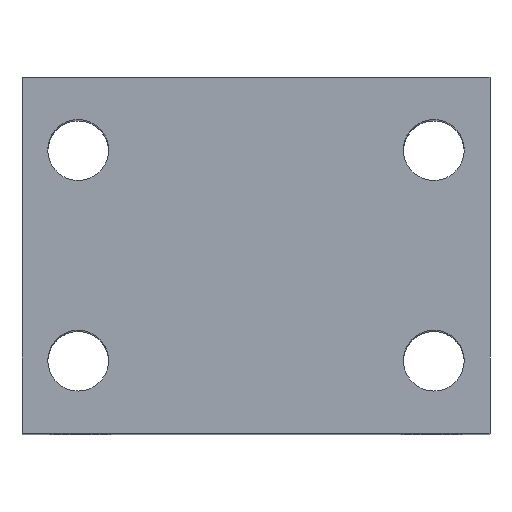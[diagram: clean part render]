
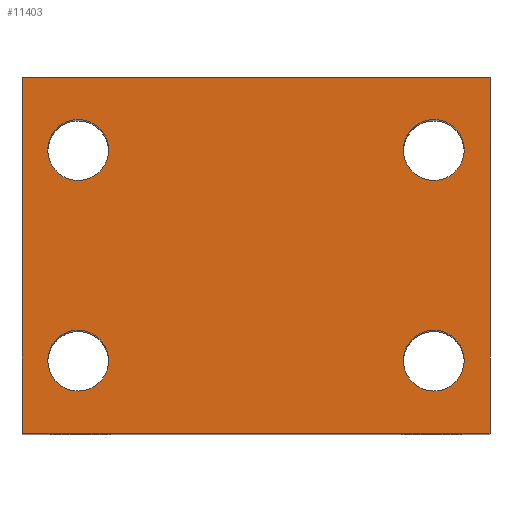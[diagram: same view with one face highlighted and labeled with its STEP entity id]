
A CAD part, top view. The second image highlights one B-rep face of the part: STEP entity #11403.
In plain terms, the highlighted planar face has unit normal (0, 0, 1).
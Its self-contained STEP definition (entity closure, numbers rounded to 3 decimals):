
#28 = CARTESIAN_POINT ( 'NONE',  ( 44.5, 15.5, 85. ) ) ;
#41 = AXIS2_PLACEMENT_3D ( 'NONE', #8819, #8781, #8708 ) ;
#129 = EDGE_CURVE ( 'NONE', #4479, #1001, #8754, .T. ) ;
#264 = DIRECTION ( 'NONE',  ( 0., 0., -1. ) ) ;
#314 = FACE_OUTER_BOUND ( 'NONE', #7160, .T. ) ;
#331 = AXIS2_PLACEMENT_3D ( 'NONE', #4909, #11137, #5876 ) ;
#432 = DIRECTION ( 'NONE',  ( -1., 0., 0. ) ) ;
#651 = CARTESIAN_POINT ( 'NONE',  ( 50., 76., 85. ) ) ;
#652 = ORIENTED_EDGE ( 'NONE', *, *, #129, .T. ) ;
#660 = CARTESIAN_POINT ( 'NONE',  ( -50., 0., 85. ) ) ;
#837 = VERTEX_POINT ( 'NONE', #660 ) ;
#1001 = VERTEX_POINT ( 'NONE', #7888 ) ;
#1056 = DIRECTION ( 'NONE',  ( 0., 0., -1. ) ) ;
#1145 = ORIENTED_EDGE ( 'NONE', *, *, #4992, .T. ) ;
#1324 = CARTESIAN_POINT ( 'NONE',  ( -50., 76., 85. ) ) ;
#1486 = ORIENTED_EDGE ( 'NONE', *, *, #6809, .T. ) ;
#1706 = AXIS2_PLACEMENT_3D ( 'NONE', #7719, #1996, #8613 ) ;
#1759 = VERTEX_POINT ( 'NONE', #9338 ) ;
#1804 = VECTOR ( 'NONE', #9469, 1000. ) ;
#1872 = ORIENTED_EDGE ( 'NONE', *, *, #4954, .T. ) ;
#1892 = VERTEX_POINT ( 'NONE', #28 ) ;
#1898 = AXIS2_PLACEMENT_3D ( 'NONE', #3279, #264, #7061 ) ;
#1996 = DIRECTION ( 'NONE',  ( 0., 0., -1. ) ) ;
#2101 = CIRCLE ( 'NONE', #3050, 6.5 ) ;
#2351 = AXIS2_PLACEMENT_3D ( 'NONE', #10316, #4942, #11170 ) ;
#2487 = CARTESIAN_POINT ( 'NONE',  ( -31.5, 60.5, 85. ) ) ;
#2517 = VERTEX_POINT ( 'NONE', #10129 ) ;
#2603 = EDGE_CURVE ( 'NONE', #11853, #8963, #9046, .T. ) ;
#2752 = VERTEX_POINT ( 'NONE', #2487 ) ;
#2939 = EDGE_CURVE ( 'NONE', #2752, #2517, #11976, .T. ) ;
#3050 = AXIS2_PLACEMENT_3D ( 'NONE', #6830, #1056, #7760 ) ;
#3179 = CARTESIAN_POINT ( 'NONE',  ( -50., 76., 85. ) ) ;
#3279 = CARTESIAN_POINT ( 'NONE',  ( -50., 76., 85. ) ) ;
#3284 = VERTEX_POINT ( 'NONE', #3494 ) ;
#3442 = DIRECTION ( 'NONE',  ( 0., 0., -1. ) ) ;
#3478 = DIRECTION ( 'NONE',  ( -1., 0., 0. ) ) ;
#3494 = CARTESIAN_POINT ( 'NONE',  ( 31.5, 15.5, 85. ) ) ;
#3565 = CARTESIAN_POINT ( 'NONE',  ( 38., 60.5, 85. ) ) ;
#3646 = EDGE_LOOP ( 'NONE', ( #1145, #8682 ) ) ;
#3686 = VECTOR ( 'NONE', #8959, 1000. ) ;
#3782 = EDGE_LOOP ( 'NONE', ( #8235, #6995 ) ) ;
#4012 = EDGE_CURVE ( 'NONE', #5978, #8996, #6203, .T. ) ;
#4204 = AXIS2_PLACEMENT_3D ( 'NONE', #11271, #11259, #11214 ) ;
#4411 = VECTOR ( 'NONE', #4984, 1000. ) ;
#4479 = VERTEX_POINT ( 'NONE', #4713 ) ;
#4713 = CARTESIAN_POINT ( 'NONE',  ( -31.5, 15.5, 85. ) ) ;
#4909 = CARTESIAN_POINT ( 'NONE',  ( -38., 60.5, 85. ) ) ;
#4924 = EDGE_CURVE ( 'NONE', #5978, #837, #7481, .T. ) ;
#4942 = DIRECTION ( 'NONE',  ( 0., 0., -1. ) ) ;
#4950 = EDGE_CURVE ( 'NONE', #2517, #2752, #11504, .T. ) ;
#4954 = EDGE_CURVE ( 'NONE', #1001, #4479, #9286, .T. ) ;
#4969 = EDGE_CURVE ( 'NONE', #3284, #1892, #5320, .T. ) ;
#4984 = DIRECTION ( 'NONE',  ( 0., -1., 0. ) ) ;
#4992 = EDGE_CURVE ( 'NONE', #8963, #11853, #2101, .T. ) ;
#5012 = EDGE_CURVE ( 'NONE', #837, #1759, #6908, .T. ) ;
#5030 = EDGE_CURVE ( 'NONE', #8996, #1759, #11253, .T. ) ;
#5121 = AXIS2_PLACEMENT_3D ( 'NONE', #3565, #3442, #3478 ) ;
#5282 = EDGE_LOOP ( 'NONE', ( #1872, #652 ) ) ;
#5320 = CIRCLE ( 'NONE', #2351, 6.5 ) ;
#5583 = FACE_BOUND ( 'NONE', #3782, .T. ) ;
#5876 = DIRECTION ( 'NONE',  ( -1., 0., 0. ) ) ;
#5978 = VERTEX_POINT ( 'NONE', #3179 ) ;
#6203 = LINE ( 'NONE', #1324, #3686 ) ;
#6288 = DIRECTION ( 'NONE',  ( 0., 0., -1. ) ) ;
#6730 = ORIENTED_EDGE ( 'NONE', *, *, #4969, .T. ) ;
#6796 = AXIS2_PLACEMENT_3D ( 'NONE', #11500, #6288, #432 ) ;
#6809 = EDGE_CURVE ( 'NONE', #1892, #3284, #12058, .T. ) ;
#6830 = CARTESIAN_POINT ( 'NONE',  ( 38., 60.5, 85. ) ) ;
#6846 = CARTESIAN_POINT ( 'NONE',  ( 31.5, 60.5, 85. ) ) ;
#6908 = LINE ( 'NONE', #12049, #1804 ) ;
#6995 = ORIENTED_EDGE ( 'NONE', *, *, #2939, .T. ) ;
#7061 = DIRECTION ( 'NONE',  ( -1., 0., 0. ) ) ;
#7160 = EDGE_LOOP ( 'NONE', ( #11641, #11726, #7970, #9777 ) ) ;
#7481 = LINE ( 'NONE', #9259, #11792 ) ;
#7719 = CARTESIAN_POINT ( 'NONE',  ( -38., 15.5, 85. ) ) ;
#7737 = FACE_BOUND ( 'NONE', #3646, .T. ) ;
#7760 = DIRECTION ( 'NONE',  ( -1., 0., 0. ) ) ;
#7888 = CARTESIAN_POINT ( 'NONE',  ( -44.5, 15.5, 85. ) ) ;
#7970 = ORIENTED_EDGE ( 'NONE', *, *, #4012, .F. ) ;
#8235 = ORIENTED_EDGE ( 'NONE', *, *, #4950, .T. ) ;
#8380 = CARTESIAN_POINT ( 'NONE',  ( 44.5, 60.5, 85. ) ) ;
#8613 = DIRECTION ( 'NONE',  ( -1., 0., 0. ) ) ;
#8648 = CARTESIAN_POINT ( 'NONE',  ( 50., 76., 85. ) ) ;
#8682 = ORIENTED_EDGE ( 'NONE', *, *, #2603, .T. ) ;
#8708 = DIRECTION ( 'NONE',  ( -1., 0., 0. ) ) ;
#8754 = CIRCLE ( 'NONE', #41, 6.5 ) ;
#8781 = DIRECTION ( 'NONE',  ( 0., 0., -1. ) ) ;
#8819 = CARTESIAN_POINT ( 'NONE',  ( -38., 15.5, 85. ) ) ;
#8959 = DIRECTION ( 'NONE',  ( 1., 0., 0. ) ) ;
#8963 = VERTEX_POINT ( 'NONE', #6846 ) ;
#8996 = VERTEX_POINT ( 'NONE', #651 ) ;
#9046 = CIRCLE ( 'NONE', #5121, 6.5 ) ;
#9259 = CARTESIAN_POINT ( 'NONE',  ( -50., 76., 85. ) ) ;
#9286 = CIRCLE ( 'NONE', #1706, 6.5 ) ;
#9338 = CARTESIAN_POINT ( 'NONE',  ( 50., 0., 85. ) ) ;
#9469 = DIRECTION ( 'NONE',  ( 1., 0., 0. ) ) ;
#9777 = ORIENTED_EDGE ( 'NONE', *, *, #4924, .T. ) ;
#10030 = FACE_BOUND ( 'NONE', #5282, .T. ) ;
#10104 = DIRECTION ( 'NONE',  ( 0., -1., 0. ) ) ;
#10129 = CARTESIAN_POINT ( 'NONE',  ( -44.5, 60.5, 85. ) ) ;
#10295 = FACE_BOUND ( 'NONE', #10304, .T. ) ;
#10304 = EDGE_LOOP ( 'NONE', ( #6730, #1486 ) ) ;
#10316 = CARTESIAN_POINT ( 'NONE',  ( 38., 15.5, 85. ) ) ;
#11137 = DIRECTION ( 'NONE',  ( 0., 0., -1. ) ) ;
#11170 = DIRECTION ( 'NONE',  ( -1., 0., 0. ) ) ;
#11214 = DIRECTION ( 'NONE',  ( -1., 0., 0. ) ) ;
#11253 = LINE ( 'NONE', #8648, #4411 ) ;
#11259 = DIRECTION ( 'NONE',  ( 0., 0., -1. ) ) ;
#11271 = CARTESIAN_POINT ( 'NONE',  ( -38., 60.5, 85. ) ) ;
#11376 = PLANE ( 'NONE',  #1898 ) ;
#11403 = ADVANCED_FACE ( 'NONE', ( #5583, #10030, #10295, #7737, #314 ), #11376, .F. ) ;
#11500 = CARTESIAN_POINT ( 'NONE',  ( 38., 15.5, 85. ) ) ;
#11504 = CIRCLE ( 'NONE', #331, 6.5 ) ;
#11641 = ORIENTED_EDGE ( 'NONE', *, *, #5012, .T. ) ;
#11726 = ORIENTED_EDGE ( 'NONE', *, *, #5030, .F. ) ;
#11792 = VECTOR ( 'NONE', #10104, 1000. ) ;
#11853 = VERTEX_POINT ( 'NONE', #8380 ) ;
#11976 = CIRCLE ( 'NONE', #4204, 6.5 ) ;
#12049 = CARTESIAN_POINT ( 'NONE',  ( -50., 0., 85. ) ) ;
#12058 = CIRCLE ( 'NONE', #6796, 6.5 ) ;
